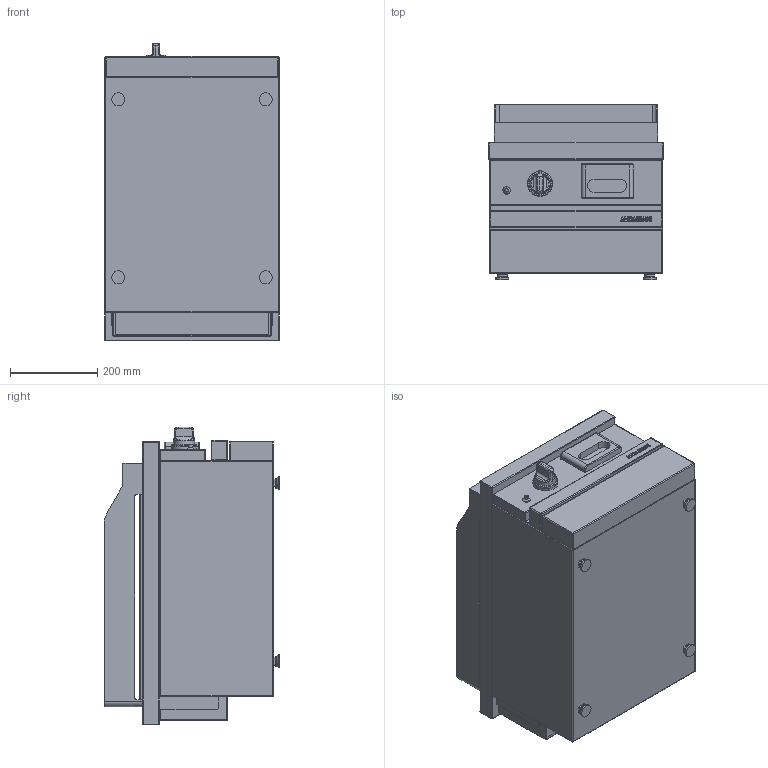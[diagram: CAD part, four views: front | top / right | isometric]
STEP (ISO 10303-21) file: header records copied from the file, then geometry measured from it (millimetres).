
FILE_DESCRIPTION((''),'2;1');
FILE_NAME('CSG410SLRC_EXPORT_STEP_ASM','2017-11-22T',('r.avril'),(''),'PRO/ENGINEER BY PARAMETRIC TECHNOLOGY CORPORATION, 2014200','PRO/ENGINEER BY PARAMETRIC TECHNOLOGY CORPORATION, 2014200','');
FILE_SCHEMA(('AP203_CONFIGURATION_CONTROLLED_3D_DESIGN_OF_MECHANICAL_PARTS_AND_ASSEMBLIES_MIM_LF { 1 0 10303 403 2 1 2 }'));
Length unit declared in the file: millimetre
Products named in the file (10): SNACKS_AMB_400_EXPORT_STEP; TABLE_410_GRILLADE; TABLE_410_GRILLADE_ASM; MANETTE_AMB_EXPORT_STEP; ALLUMEUR_EXPORT_STEP; TIROIR_GRILLADE_EXPORT_STEP; 50288700; 50289100; 65070007_ASM; CSG410SLRC_EXPORT_STEP_ASM
Assembly tree (9 placements, depth 3):
  CSG410SLRC_EXPORT_STEP_ASM
    SNACKS_AMB_400_EXPORT_STEP
    TABLE_410_GRILLADE_ASM
      TABLE_410_GRILLADE
    MANETTE_AMB_EXPORT_STEP
    ALLUMEUR_EXPORT_STEP
    TIROIR_GRILLADE_EXPORT_STEP
    65070007_ASM
      50288700
      50289100
Bounding box: 400 x 402.43 x 682.5 mm (x, y, z)
Volume: 35776996.1 mm3; surface area: 2973007.9 mm2
Topology: 11 solids, 36 shells, 593 faces, 2108 edges, 1803 vertices
Faces by surface type: plane 243, cylinder 192, cone 78, sphere 38, torus 30, bspline 12
Entity records: 29511 total; most frequent: CARTESIAN_POINT 7473, DIRECTION 3560, ORIENTED_EDGE 3223, EDGE_CURVE 1850, VERTEX_POINT 1319, AXIS2_PLACEMENT_3D 1222, VECTOR 1086, LINE 1086
